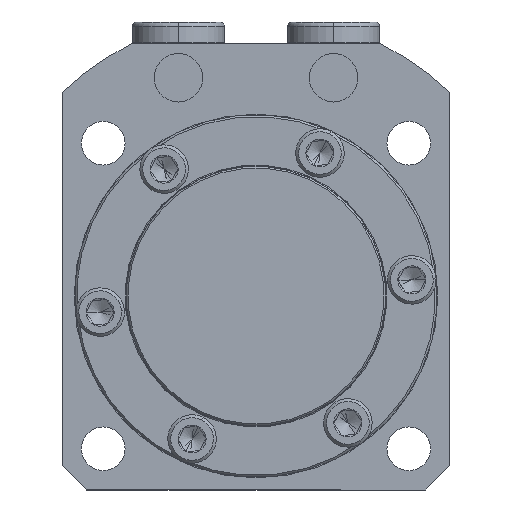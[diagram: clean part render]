
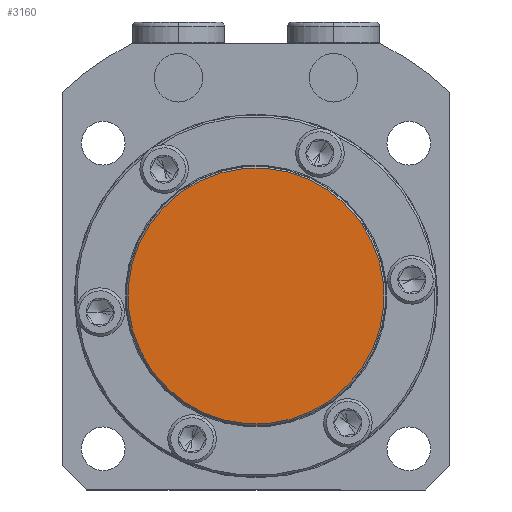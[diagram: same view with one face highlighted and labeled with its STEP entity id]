
A CAD part, front view. The second image highlights one B-rep face of the part: STEP entity #3160.
In plain terms, the highlighted planar face has unit normal (0, -1, 0).
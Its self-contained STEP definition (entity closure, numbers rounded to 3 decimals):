
#141 = EDGE_LOOP ( 'NONE', ( #7115, #7116 ) ) ;
#911 = CARTESIAN_POINT ( 'NONE',  ( 0., -12.2, 0. ) ) ;
#912 = DIRECTION ( 'NONE',  ( 0., -1., 0. ) ) ;
#913 = DIRECTION ( 'NONE',  ( 0., 0., -1. ) ) ;
#1025 = CARTESIAN_POINT ( 'NONE',  ( 0., -12.2, 0. ) ) ;
#1026 = DIRECTION ( 'NONE',  ( 0., -1., 0. ) ) ;
#1027 = DIRECTION ( 'NONE',  ( 0., 0., -1. ) ) ;
#2047 = CIRCLE ( 'NONE', #2052, 26.4 ) ;
#2052 = AXIS2_PLACEMENT_3D ( 'NONE', #911, #912, #913 ) ;
#2100 = CIRCLE ( 'NONE', #2103, 26.4 ) ;
#2103 = AXIS2_PLACEMENT_3D ( 'NONE', #1025, #1026, #1027 ) ;
#3160 = ADVANCED_FACE ( 'NONE', ( #4439 ), #4440, .T. ) ;
#3267 = EDGE_CURVE ( 'NONE', #7345, #7473, #2047, .T. ) ;
#3303 = EDGE_CURVE ( 'NONE', #7473, #7345, #2100, .T. ) ;
#4415 = CARTESIAN_POINT ( 'NONE',  ( 0., -12.2, 0. ) ) ;
#4439 = FACE_OUTER_BOUND ( 'NONE', #141, .T. ) ;
#4440 = PLANE ( 'NONE',  #5127 ) ;
#4443 = DIRECTION ( 'NONE',  ( 0., -1., 0. ) ) ;
#4444 = DIRECTION ( 'NONE',  ( 0., 0., -1. ) ) ;
#5127 = AXIS2_PLACEMENT_3D ( 'NONE', #4415, #4443, #4444 ) ;
#5754 = CARTESIAN_POINT ( 'NONE',  ( 0., -12.2, -26.4 ) ) ;
#5882 = CARTESIAN_POINT ( 'NONE',  ( 0., -12.2, 26.4 ) ) ;
#7115 = ORIENTED_EDGE ( 'NONE', *, *, #3303, .T. ) ;
#7116 = ORIENTED_EDGE ( 'NONE', *, *, #3267, .T. ) ;
#7345 = VERTEX_POINT ( 'NONE', #5754 ) ;
#7473 = VERTEX_POINT ( 'NONE', #5882 ) ;
